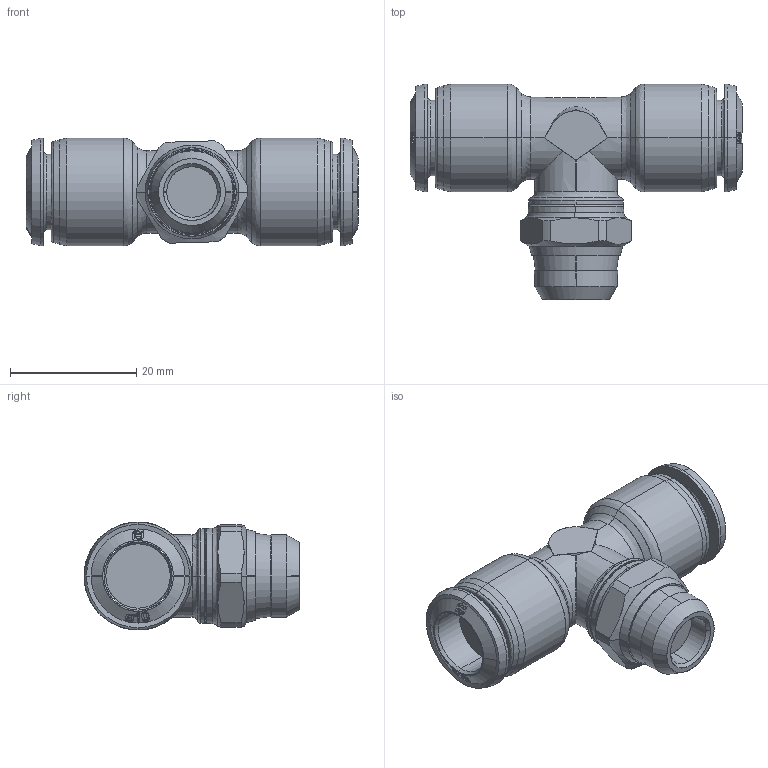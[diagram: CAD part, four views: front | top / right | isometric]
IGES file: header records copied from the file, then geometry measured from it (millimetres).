
Start section: SolidWorks IGES file using analytic representation for surfaces
Global section: file name: K:\Disegni Esecutivi\Serie 55000\ASSIEMI_55000\55211\ASSIEMI_.IGES_55211\5521100012A.IGS; native system: SolidWorks 2007; preprocessor: SolidWorks 2007; author: cad02; date: 071127.150703; units: millimetre
Bounding box: 52.6 x 34.2 x 17.1 mm (x, y, z)
Surface area: 5421.9 mm2 (no closed solid volume)
Topology: 0 solids, 0 shells, 291 faces, 3159 edges, 3156 vertices
Faces by surface type: bspline 171, revolution 120
